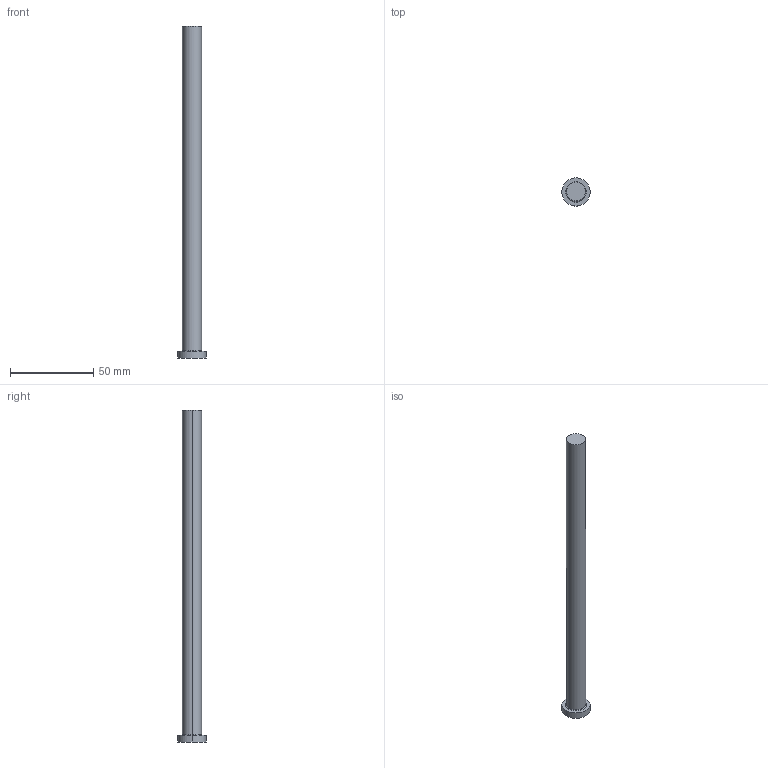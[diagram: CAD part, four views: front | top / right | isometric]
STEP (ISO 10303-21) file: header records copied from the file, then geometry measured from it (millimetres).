
FILE_DESCRIPTION (( 'STEP AP214' ), '1' );
FILE_NAME ('EPHE-B11.5-200.step', '2024-04-11T21:34:11', ( '' ), ( '' ), 'SwSTEP 2.0', 'SolidWorks 2017', '' );
FILE_SCHEMA (( 'AUTOMOTIVE_DESIGN' ));
Length unit declared in the file: millimetre
Products named in the file (1): EPHE-B11.5-200
Bounding box: 17 x 17 x 200 mm (x, y, z)
Volume: 21268.2 mm3; surface area: 7741.1 mm2
Topology: 1 solids, 1 shells, 9 faces, 16 edges, 10 vertices
Faces by surface type: cylinder 4, plane 3, torus 2
Entity records: 260 total; most frequent: DIRECTION 48, CARTESIAN_POINT 36, ORIENTED_EDGE 32, AXIS2_PLACEMENT_3D 22, EDGE_CURVE 16, CIRCLE 12, EDGE_LOOP 10, VERTEX_POINT 10
